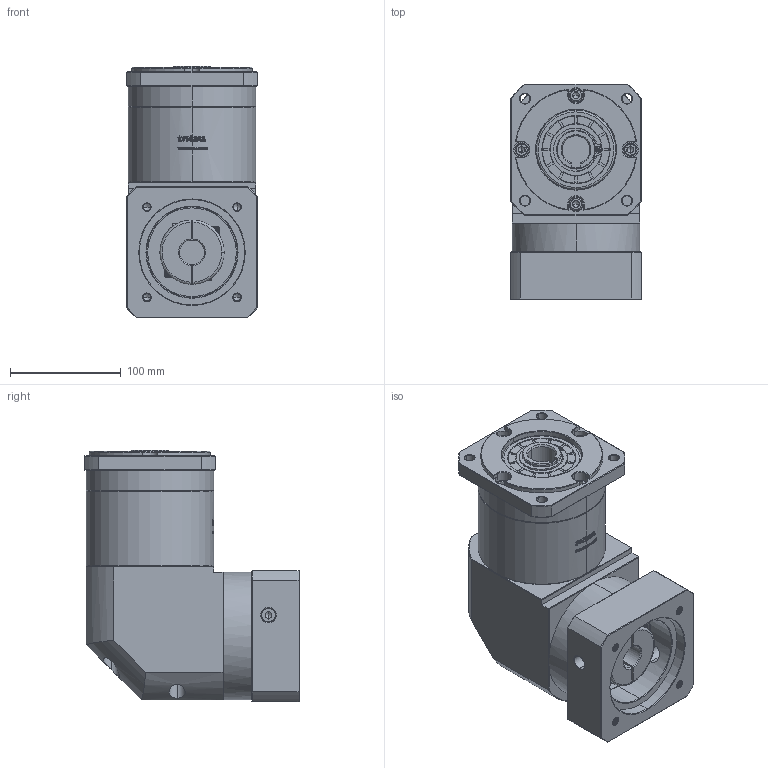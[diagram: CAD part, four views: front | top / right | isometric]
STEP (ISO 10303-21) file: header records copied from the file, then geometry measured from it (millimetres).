
FILE_DESCRIPTION (( 'STEP AP214' ), '1' );
FILE_NAME ('ZFR120A-K25-L2-22-95-115-M8.step', '2023-03-08T08:31:46', ( '' ), ( '' ), 'SwSTEP 2.0', 'SolidWorks 2016', '' );
FILE_SCHEMA (( 'AUTOMOTIVE_DESIGN' ));
Length unit declared in the file: millimetre
Products named in the file (1): ZFR120A-K25-L2-22-95-115-M8
Bounding box: 118 x 193.9 x 226.5 mm (x, y, z)
Volume: 3147724.4 mm3; surface area: 252058.3 mm2
Topology: 6 solids, 6 shells, 2815 faces, 7527 edges, 4857 vertices
Faces by surface type: plane 1477, bspline 598, cylinder 401, cone 331, torus 8
Entity records: 152483 total; most frequent: CARTESIAN_POINT 56868, ORIENTED_EDGE 14998, DIRECTION 10928, EDGE_CURVE 7499, VERTEX_POINT 4857, LINE 4696, VECTOR 4696, AXIS2_PLACEMENT_3D 3116
